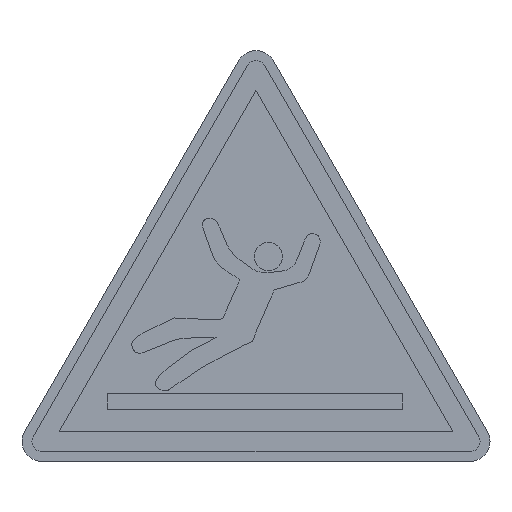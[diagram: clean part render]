
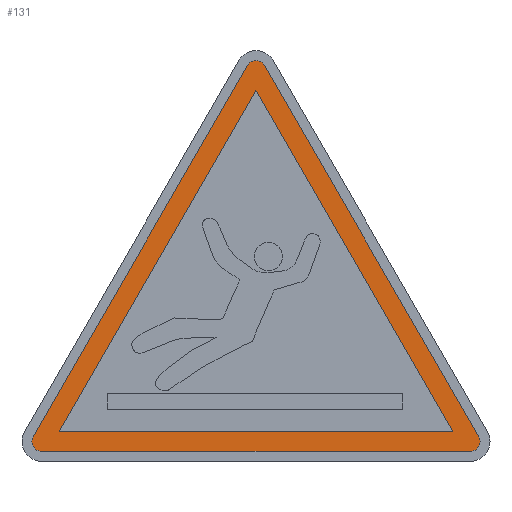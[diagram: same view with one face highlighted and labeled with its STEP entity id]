
A CAD part, top view. The second image highlights one B-rep face of the part: STEP entity #131.
In plain terms, the highlighted planar face has unit normal (0, 0, 1).
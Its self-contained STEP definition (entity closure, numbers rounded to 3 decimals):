
#9 = AXIS2_PLACEMENT_3D ( 'NONE', #316, #200, #1203 ) ;
#94 = LINE ( 'NONE', #611, #832 ) ;
#104 = ORIENTED_EDGE ( 'NONE', *, *, #383, .F. ) ;
#113 = VERTEX_POINT ( 'NONE', #1343 ) ;
#131 = ADVANCED_FACE ( 'NONE', ( #686, #708 ), #433, .T. ) ;
#132 = DIRECTION ( 'NONE',  ( 1., 0., 0. ) ) ;
#133 = DIRECTION ( 'NONE',  ( 0., 0., 1. ) ) ;
#194 = CARTESIAN_POINT ( 'NONE',  ( 0., 37.301, 0.22 ) ) ;
#200 = DIRECTION ( 'NONE',  ( 0., 0., 1. ) ) ;
#209 = DIRECTION ( 'NONE',  ( 1., 0., 0. ) ) ;
#222 = ORIENTED_EDGE ( 'NONE', *, *, #604, .T. ) ;
#230 = CARTESIAN_POINT ( 'NONE',  ( -22.536, 2., 0.22 ) ) ;
#250 = VERTEX_POINT ( 'NONE', #744 ) ;
#291 = CARTESIAN_POINT ( 'NONE',  ( 0., 39.301, 0.22 ) ) ;
#308 = CARTESIAN_POINT ( 'NONE',  ( 0., 39.301, 0.22 ) ) ;
#316 = CARTESIAN_POINT ( 'NONE',  ( 21.536, 2., 0.22 ) ) ;
#319 = CIRCLE ( 'NONE', #1263, 1. ) ;
#322 = EDGE_LOOP ( 'NONE', ( #104, #736, #1348 ) ) ;
#327 = LINE ( 'NONE', #194, #1042 ) ;
#332 = EDGE_CURVE ( 'NONE', #1553, #250, #1532, .T. ) ;
#360 = DIRECTION ( 'NONE',  ( -0.5, -0.866, 0. ) ) ;
#382 = CARTESIAN_POINT ( 'NONE',  ( -21.536, 2., 0.22 ) ) ;
#383 = EDGE_CURVE ( 'NONE', #556, #754, #764, .T. ) ;
#400 = VECTOR ( 'NONE', #209, 1000. ) ;
#402 = DIRECTION ( 'NONE',  ( -0.5, -0.866, 0. ) ) ;
#404 = VERTEX_POINT ( 'NONE', #919 ) ;
#433 = PLANE ( 'NONE',  #716 ) ;
#473 = CARTESIAN_POINT ( 'NONE',  ( -21.536, 1., 0.22 ) ) ;
#505 = DIRECTION ( 'NONE',  ( 1., 0., 0. ) ) ;
#516 = ORIENTED_EDGE ( 'NONE', *, *, #982, .T. ) ;
#556 = VERTEX_POINT ( 'NONE', #1551 ) ;
#576 = CARTESIAN_POINT ( 'NONE',  ( -0.866, 39.801, 0.22 ) ) ;
#604 = EDGE_CURVE ( 'NONE', #404, #1533, #694, .T. ) ;
#611 = CARTESIAN_POINT ( 'NONE',  ( -0.866, 39.801, 0.22 ) ) ;
#631 = LINE ( 'NONE', #1143, #1126 ) ;
#632 = VECTOR ( 'NONE', #1383, 1000. ) ;
#652 = CARTESIAN_POINT ( 'NONE',  ( -19.804, 3., 0.22 ) ) ;
#661 = VERTEX_POINT ( 'NONE', #998 ) ;
#664 = DIRECTION ( 'NONE',  ( 0., 0., 1. ) ) ;
#670 = DIRECTION ( 'NONE',  ( 1., 0., 0. ) ) ;
#686 = FACE_OUTER_BOUND ( 'NONE', #1290, .T. ) ;
#694 = CIRCLE ( 'NONE', #9, 1. ) ;
#696 = DIRECTION ( 'NONE',  ( 0., 0., 1. ) ) ;
#708 = FACE_BOUND ( 'NONE', #322, .T. ) ;
#716 = AXIS2_PLACEMENT_3D ( 'NONE', #308, #696, #1215 ) ;
#721 = AXIS2_PLACEMENT_3D ( 'NONE', #1419, #664, #505 ) ;
#736 = ORIENTED_EDGE ( 'NONE', *, *, #1656, .F. ) ;
#741 = EDGE_CURVE ( 'NONE', #754, #1200, #631, .T. ) ;
#744 = CARTESIAN_POINT ( 'NONE',  ( -21.536, 1., 0.22 ) ) ;
#754 = VERTEX_POINT ( 'NONE', #1413 ) ;
#764 = LINE ( 'NONE', #652, #1183 ) ;
#793 = DIRECTION ( 'NONE',  ( 0., 0., 1. ) ) ;
#815 = EDGE_CURVE ( 'NONE', #113, #899, #319, .T. ) ;
#832 = VECTOR ( 'NONE', #360, 1000. ) ;
#859 = LINE ( 'NONE', #1622, #632 ) ;
#868 = CARTESIAN_POINT ( 'NONE',  ( 0., 37.301, 0.22 ) ) ;
#899 = VERTEX_POINT ( 'NONE', #576 ) ;
#917 = ORIENTED_EDGE ( 'NONE', *, *, #1010, .T. ) ;
#919 = CARTESIAN_POINT ( 'NONE',  ( 21.536, 1., 0.22 ) ) ;
#947 = ORIENTED_EDGE ( 'NONE', *, *, #815, .T. ) ;
#982 = EDGE_CURVE ( 'NONE', #250, #404, #1244, .T. ) ;
#998 = CARTESIAN_POINT ( 'NONE',  ( -22.402, 2.5, 0.22 ) ) ;
#1010 = EDGE_CURVE ( 'NONE', #899, #661, #94, .T. ) ;
#1038 = ORIENTED_EDGE ( 'NONE', *, *, #332, .T. ) ;
#1042 = VECTOR ( 'NONE', #402, 1000. ) ;
#1057 = EDGE_CURVE ( 'NONE', #661, #1553, #1324, .T. ) ;
#1076 = ORIENTED_EDGE ( 'NONE', *, *, #1567, .T. ) ;
#1126 = VECTOR ( 'NONE', #1404, 1000. ) ;
#1143 = CARTESIAN_POINT ( 'NONE',  ( 19.804, 3., 0.22 ) ) ;
#1175 = DIRECTION ( 'NONE',  ( 1., 0., 0. ) ) ;
#1183 = VECTOR ( 'NONE', #1175, 1000. ) ;
#1200 = VERTEX_POINT ( 'NONE', #868 ) ;
#1203 = DIRECTION ( 'NONE',  ( 1., 0., 0. ) ) ;
#1215 = DIRECTION ( 'NONE',  ( 1., 0., 0. ) ) ;
#1244 = LINE ( 'NONE', #473, #400 ) ;
#1254 = CARTESIAN_POINT ( 'NONE',  ( 22.402, 2.5, 0.22 ) ) ;
#1263 = AXIS2_PLACEMENT_3D ( 'NONE', #291, #793, #132 ) ;
#1290 = EDGE_LOOP ( 'NONE', ( #947, #917, #1519, #1038, #516, #222, #1076 ) ) ;
#1324 = CIRCLE ( 'NONE', #721, 1. ) ;
#1343 = CARTESIAN_POINT ( 'NONE',  ( 0.866, 39.801, 0.22 ) ) ;
#1348 = ORIENTED_EDGE ( 'NONE', *, *, #741, .F. ) ;
#1383 = DIRECTION ( 'NONE',  ( -0.5, 0.866, 0. ) ) ;
#1404 = DIRECTION ( 'NONE',  ( -0.5, 0.866, 0. ) ) ;
#1413 = CARTESIAN_POINT ( 'NONE',  ( 19.804, 3., 0.22 ) ) ;
#1419 = CARTESIAN_POINT ( 'NONE',  ( -21.536, 2., 0.22 ) ) ;
#1519 = ORIENTED_EDGE ( 'NONE', *, *, #1057, .T. ) ;
#1532 = CIRCLE ( 'NONE', #1562, 1. ) ;
#1533 = VERTEX_POINT ( 'NONE', #1254 ) ;
#1551 = CARTESIAN_POINT ( 'NONE',  ( -19.804, 3., 0.22 ) ) ;
#1553 = VERTEX_POINT ( 'NONE', #230 ) ;
#1562 = AXIS2_PLACEMENT_3D ( 'NONE', #382, #133, #670 ) ;
#1567 = EDGE_CURVE ( 'NONE', #1533, #113, #859, .T. ) ;
#1622 = CARTESIAN_POINT ( 'NONE',  ( 22.402, 2.5, 0.22 ) ) ;
#1656 = EDGE_CURVE ( 'NONE', #1200, #556, #327, .T. ) ;
